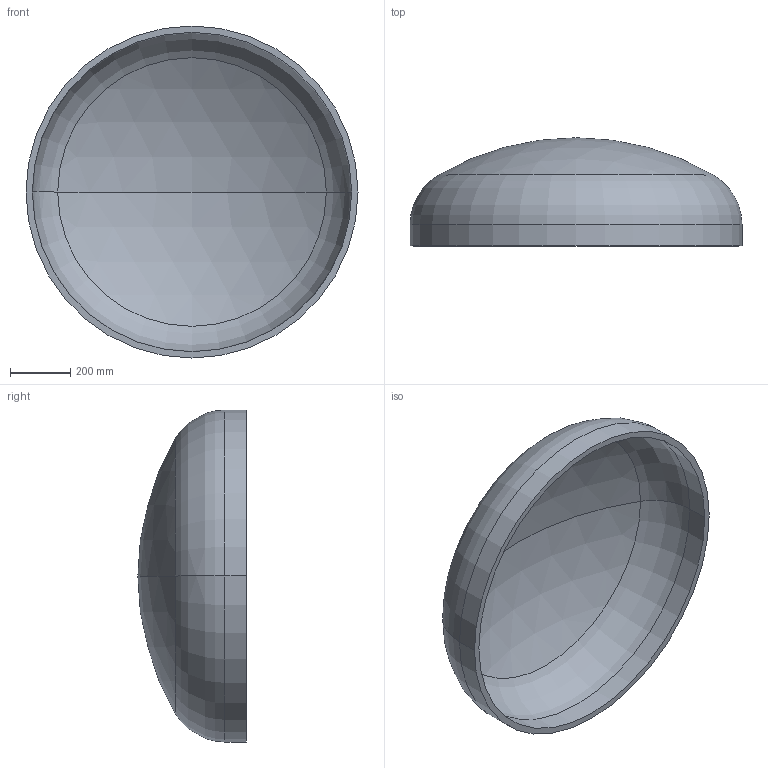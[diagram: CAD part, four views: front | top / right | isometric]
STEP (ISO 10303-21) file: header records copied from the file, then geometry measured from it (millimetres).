
FILE_DESCRIPTION (( 'STEP AP203' ), '1' );
FILE_NAME ('DIN 28013 Korbbogenform_-_Boden DIN 28013 - 1100 x 70 - I - s=21.step', '2016-07-01T09:03:17', ( '' ), ( '' ), 'SwSTEP 2.0', 'SolidWorks 2013', '' );
FILE_SCHEMA (( 'CONFIG_CONTROL_DESIGN' ));
Length unit declared in the file: millimetre
Products named in the file (1): DIN 28013 Korbbogenform_-_Boden DIN 28013 - 1100 x 70 - I - s=21
Bounding box: 1100 x 358.45 x 1100 mm (x, y, z)
Volume: 31955568.1 mm3; surface area: 3115495.4 mm2
Topology: 1 solids, 1 shells, 13 faces, 24 edges, 14 vertices
Faces by surface type: torus 4, cylinder 4, sphere 4, plane 1
Entity records: 407 total; most frequent: DIRECTION 72, CARTESIAN_POINT 52, ORIENTED_EDGE 48, AXIS2_PLACEMENT_3D 34, EDGE_CURVE 24, CIRCLE 20, EDGE_LOOP 14, VERTEX_POINT 14
